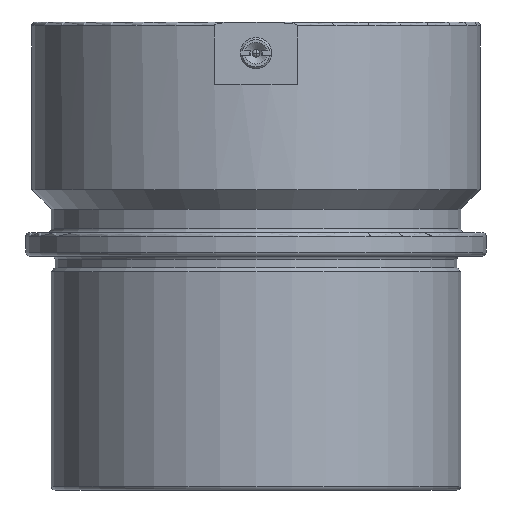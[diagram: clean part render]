
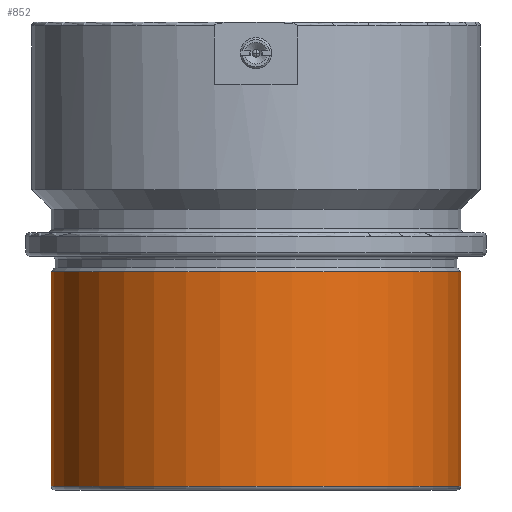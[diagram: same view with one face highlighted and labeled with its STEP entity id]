
A CAD part, front view. The second image highlights one B-rep face of the part: STEP entity #852.
In plain terms, the highlighted cylindrical face has radius 52.5 mm (diameter 105 mm), a partial arc.
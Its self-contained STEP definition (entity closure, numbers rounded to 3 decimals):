
#718=CARTESIAN_POINT('Vertex',(-52.5,0.,-59.)) ;
#725=CARTESIAN_POINT('Vertex',(52.5,0.,-59.)) ;
#745=CARTESIAN_POINT('Axis2P3D Location',(0.,0.,-59.)) ;
#810=CARTESIAN_POINT('Line Origine',(-52.5,0.,60.)) ;
#814=CARTESIAN_POINT('Vertex',(-52.5,0.,-4.)) ;
#821=CARTESIAN_POINT('Vertex',(52.5,0.,-4.)) ;
#824=CARTESIAN_POINT('Line Origine',(52.5,0.,60.)) ;
#836=CARTESIAN_POINT('Axis2P3D Location',(0.,0.,60.)) ;
#841=CARTESIAN_POINT('Axis2P3D Location',(0.,0.,-4.)) ;
#746=DIRECTION('Axis2P3D Direction',(0.,-0.,1.)) ;
#811=DIRECTION('Vector Direction',(0.,0.,1.)) ;
#825=DIRECTION('Vector Direction',(0.,0.,1.)) ;
#837=DIRECTION('Axis2P3D Direction',(0.,-0.,1.)) ;
#838=DIRECTION('Axis2P3D XDirection',(-1.,0.,0.)) ;
#842=DIRECTION('Axis2P3D Direction',(0.,-0.,1.)) ;
#747=AXIS2_PLACEMENT_3D('Circle Axis2P3D',#745,#746,$) ;
#839=AXIS2_PLACEMENT_3D('Cylinder Axis2P3D',#836,#837,#838) ;
#843=AXIS2_PLACEMENT_3D('Circle Axis2P3D',#841,#842,$) ;
#847=ORIENTED_EDGE('',*,*,#816,.F.) ;
#848=ORIENTED_EDGE('',*,*,#749,.T.) ;
#849=ORIENTED_EDGE('',*,*,#828,.T.) ;
#850=ORIENTED_EDGE('',*,*,#845,.F.) ;
#812=VECTOR('Line Direction',#811,1.) ;
#826=VECTOR('Line Direction',#825,1.) ;
#852=ADVANCED_FACE('744-80 sol1',(#851),#840,.T.) ;
#748=CIRCLE('generated circle',#747,52.5) ;
#844=CIRCLE('generated circle',#843,52.5) ;
#840=CYLINDRICAL_SURFACE('generated cylinder',#839,52.5) ;
#749=EDGE_CURVE('',#719,#726,#748,.T.) ;
#816=EDGE_CURVE('',#719,#815,#813,.T.) ;
#828=EDGE_CURVE('',#726,#822,#827,.T.) ;
#845=EDGE_CURVE('',#815,#822,#844,.T.) ;
#846=EDGE_LOOP('',(#847,#848,#849,#850)) ;
#851=FACE_OUTER_BOUND('',#846,.T.) ;
#813=LINE('Line',#810,#812) ;
#827=LINE('Line',#824,#826) ;
#719=VERTEX_POINT('',#718) ;
#726=VERTEX_POINT('',#725) ;
#815=VERTEX_POINT('',#814) ;
#822=VERTEX_POINT('',#821) ;
